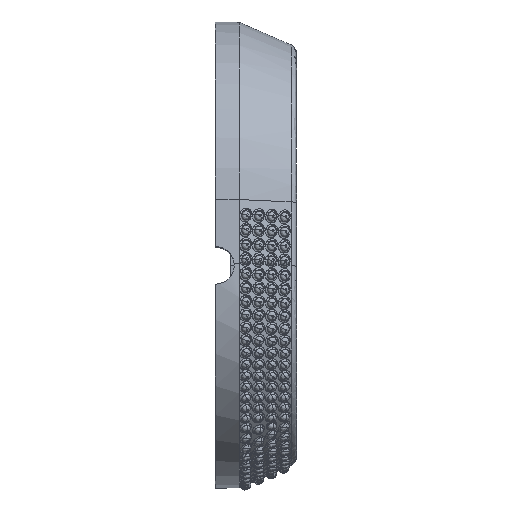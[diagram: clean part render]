
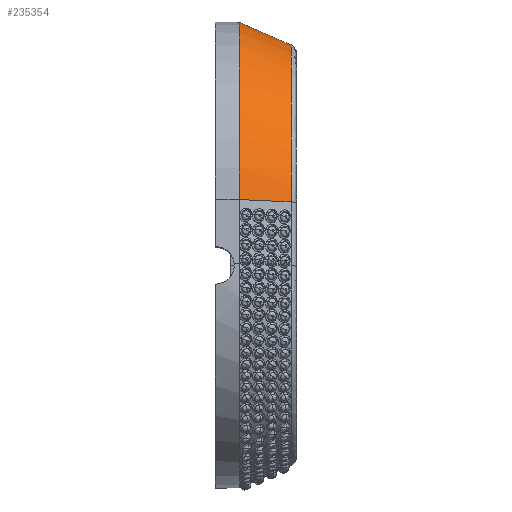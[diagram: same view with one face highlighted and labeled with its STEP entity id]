
A CAD part, top view. The second image highlights one B-rep face of the part: STEP entity #235354.
In plain terms, the highlighted conical face has half-angle 23.579 degrees and reference radius 46.75 mm.
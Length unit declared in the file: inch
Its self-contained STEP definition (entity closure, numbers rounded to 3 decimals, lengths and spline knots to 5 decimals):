
#10099 = B_SPLINE_CURVE_WITH_KNOTS ( 'NONE', 3,
 ( #170414, #130553, #211572, #254078, #251450, #69452, #70755, #133175, #11067, #73386 ),
 .UNSPECIFIED., .F., .F.,
 ( 4, 2, 2, 2, 4 ),
 ( 0., 0.25, 0.5, 0.75, 1. ),
 .UNSPECIFIED. ) ;
#11067 = CARTESIAN_POINT ( 'NONE',  ( 8.60294, 1.10335, 1.83383 ) ) ;
#28982 = CARTESIAN_POINT ( 'NONE',  ( 8.66142, 0.87303, 1.83133 ) ) ;
#33193 = EDGE_CURVE ( 'NONE', #189077, #122264, #183030, .T. ) ;
#36346 = EDGE_CURVE ( 'NONE', #62635, #122264, #94383, .T. ) ;
#41735 = ORIENTED_EDGE ( 'NONE', *, *, #33193, .T. ) ;
#48864 = DIRECTION ( 'NONE',  ( -0.917, 0.04, 0.398 ) ) ;
#62154 = CARTESIAN_POINT ( 'NONE',  ( 8.66142, 2.52953, 0. ) ) ;
#62635 = VERTEX_POINT ( 'NONE', #70542 ) ;
#64418 = VECTOR ( 'NONE', #139223, 39.37008 ) ;
#65128 = ORIENTED_EDGE ( 'NONE', *, *, #125359, .F. ) ;
#69452 = CARTESIAN_POINT ( 'NONE',  ( 8.60294, 1.91935, 1.42155 ) ) ;
#70542 = CARTESIAN_POINT ( 'NONE',  ( 8.05118, 0.89967, 2.09633 ) ) ;
#70755 = CARTESIAN_POINT ( 'NONE',  ( 8.60294, 1.73477, 1.56235 ) ) ;
#73386 = CARTESIAN_POINT ( 'NONE',  ( 8.60294, 0.87558, 1.85672 ) ) ;
#84269 = FACE_OUTER_BOUND ( 'NONE', #204079, .T. ) ;
#89995 = CARTESIAN_POINT ( 'NONE',  ( 8.05118, 2.79587, 0. ) ) ;
#92402 = AXIS2_PLACEMENT_3D ( 'NONE', #167893, #211659, #106810 ) ;
#94383 = CIRCLE ( 'NONE', #221590, 2.10689 ) ;
#98936 = DIRECTION ( 'NONE',  ( -1., 0., 0. ) ) ;
#106810 = DIRECTION ( 'NONE',  ( 0., 0., -1. ) ) ;
#109936 = LINE ( 'NONE', #28982, #134754 ) ;
#117548 = DIRECTION ( 'NONE',  ( 0., 0.1, 0.995 ) ) ;
#122264 = VERTEX_POINT ( 'NONE', #89995 ) ;
#125359 = EDGE_CURVE ( 'NONE', #189077, #221575, #10099, .T. ) ;
#130553 = CARTESIAN_POINT ( 'NONE',  ( 8.60294, 2.55505, 0.22891 ) ) ;
#133175 = CARTESIAN_POINT ( 'NONE',  ( 8.60294, 1.32618, 1.76878 ) ) ;
#134754 = VECTOR ( 'NONE', #48864, 39.37008 ) ;
#139223 = DIRECTION ( 'NONE',  ( -0.917, 0.4, 0. ) ) ;
#167893 = CARTESIAN_POINT ( 'NONE',  ( 8.66142, 0.68898, 0. ) ) ;
#170414 = CARTESIAN_POINT ( 'NONE',  ( 8.60294, 2.55505, 0. ) ) ;
#179956 = CARTESIAN_POINT ( 'NONE',  ( 8.05118, 0.68898, 0. ) ) ;
#183030 = LINE ( 'NONE', #62154, #64418 ) ;
#189077 = VERTEX_POINT ( 'NONE', #199315 ) ;
#199315 = CARTESIAN_POINT ( 'NONE',  ( 8.60294, 2.55505, 0. ) ) ;
#204079 = EDGE_LOOP ( 'NONE', ( #41735, #242184, #239262, #65128 ) ) ;
#206910 = CARTESIAN_POINT ( 'NONE',  ( 8.60294, 0.87558, 1.85672 ) ) ;
#206971 = EDGE_CURVE ( 'NONE', #221575, #62635, #109936, .T. ) ;
#211572 = CARTESIAN_POINT ( 'NONE',  ( 8.60294, 2.51262, 0.45713 ) ) ;
#211659 = DIRECTION ( 'NONE',  ( -1., 0., 0. ) ) ;
#221575 = VERTEX_POINT ( 'NONE', #206910 ) ;
#221590 = AXIS2_PLACEMENT_3D ( 'NONE', #179956, #98936, #117548 ) ;
#235354 = ADVANCED_FACE ( 'NONE', ( #84269 ), #253593, .T. ) ;
#239262 = ORIENTED_EDGE ( 'NONE', *, *, #206971, .F. ) ;
#242184 = ORIENTED_EDGE ( 'NONE', *, *, #36346, .F. ) ;
#251450 = CARTESIAN_POINT ( 'NONE',  ( 8.60294, 2.22644, 1.08205 ) ) ;
#253593 = CONICAL_SURFACE ( 'NONE', #92402, 1.84055, 0.412 ) ;
#254078 = CARTESIAN_POINT ( 'NONE',  ( 8.60294, 2.34808, 0.88432 ) ) ;
